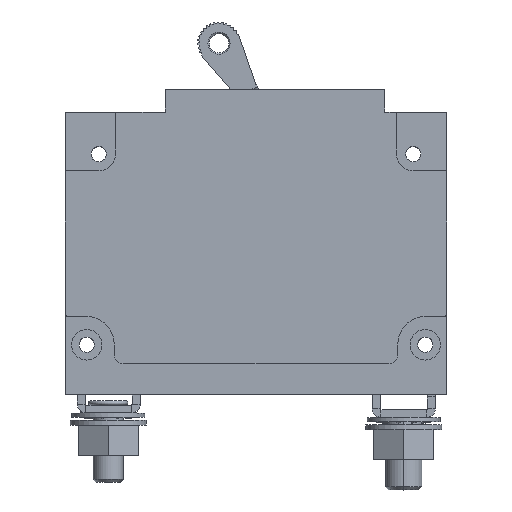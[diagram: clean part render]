
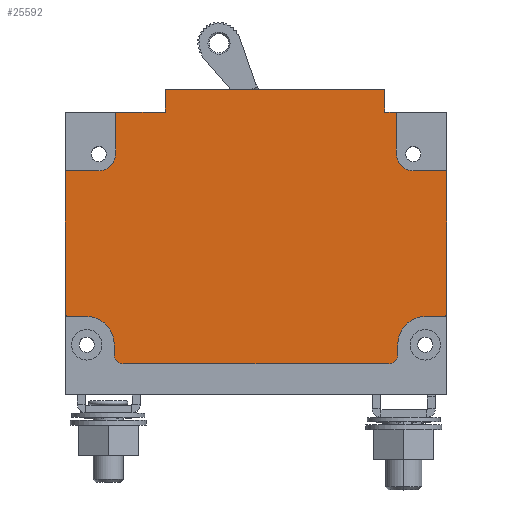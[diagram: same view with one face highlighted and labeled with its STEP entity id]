
A CAD part, top view. The second image highlights one B-rep face of the part: STEP entity #25592.
In plain terms, the highlighted planar face has unit normal (0, 0, 1).
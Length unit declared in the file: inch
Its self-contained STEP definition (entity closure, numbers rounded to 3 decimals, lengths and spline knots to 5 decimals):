
#3693=CARTESIAN_POINT('',(-0.993,-1.403,-1.116));
#3694=DIRECTION('',(0.,0.,1.));
#3695=DIRECTION('',(-1.,0.,0.));
#3696=AXIS2_PLACEMENT_3D('',#3693,#3694,#3695);
#3711=CARTESIAN_POINT('',(-1.235,-1.335,-1.116));
#3712=DIRECTION('',(0.,0.,-1.));
#3713=DIRECTION('',(0.,1.,0.));
#3714=AXIS2_PLACEMENT_3D('',#3711,#3712,#3713);
#3729=CARTESIAN_POINT('',(-1.36,-1.14,-1.116));
#3730=DIRECTION('',(0.,0.,1.));
#3731=DIRECTION('',(-1.,0.,0.));
#3732=AXIS2_PLACEMENT_3D('',#3729,#3730,#3731);
#3743=DIRECTION('',(0.,1.,0.));
#3744=VECTOR('',#3743,0.068);
#3745=CARTESIAN_POINT('',(-1.055,-1.403,-1.116));
#3746=LINE('',#3745,#3744);
#3747=DIRECTION('',(-1.,0.,0.));
#3748=VECTOR('',#3747,0.125);
#3749=CARTESIAN_POINT('',(-1.235,-1.155,-1.116));
#3750=LINE('',#3749,#3748);
#3751=DIRECTION('',(0.,-1.,0.));
#3752=VECTOR('',#3751,0.94);
#3753=CARTESIAN_POINT('',(-1.375,-0.2,-1.116));
#3754=LINE('',#3753,#3752);
#3755=DIRECTION('',(1.,0.,0.));
#3756=VECTOR('',#3755,0.219);
#3757=CARTESIAN_POINT('',(-1.375,-0.2,-1.116));
#3758=LINE('',#3757,#3756);
#3759=CARTESIAN_POINT('',(-1.156,-0.09,-1.116));
#3760=DIRECTION('',(0.,0.,1.));
#3761=DIRECTION('',(0.,-1.,0.));
#3762=AXIS2_PLACEMENT_3D('',#3759,#3760,#3761);
#3764=DIRECTION('',(0.,1.,0.));
#3765=VECTOR('',#3764,0.275);
#3766=CARTESIAN_POINT('',(-1.046,-0.09,-1.116));
#3767=LINE('',#3766,#3765);
#3768=DIRECTION('',(-1.,0.,0.));
#3769=VECTOR('',#3768,0.327);
#3770=CARTESIAN_POINT('',(-0.719,0.185,-1.116));
#3771=LINE('',#3770,#3769);
#3772=DIRECTION('',(0.,1.,0.));
#3773=VECTOR('',#3772,0.15);
#3774=CARTESIAN_POINT('',(-0.719,0.185,-1.116));
#3775=LINE('',#3774,#3773);
#3776=DIRECTION('',(1.,0.,0.));
#3777=VECTOR('',#3776,1.438);
#3778=CARTESIAN_POINT('',(-0.719,0.335,-1.116));
#3779=LINE('',#3778,#3777);
#3780=DIRECTION('',(0.,-1.,0.));
#3781=VECTOR('',#3780,0.15);
#3782=CARTESIAN_POINT('',(0.719,0.335,-1.116));
#3783=LINE('',#3782,#3781);
#3784=DIRECTION('',(-1.,0.,0.));
#3785=VECTOR('',#3784,0.077);
#3786=CARTESIAN_POINT('',(0.796,0.185,-1.116));
#3787=LINE('',#3786,#3785);
#3788=DIRECTION('',(0.,-1.,0.));
#3789=VECTOR('',#3788,0.275);
#3790=CARTESIAN_POINT('',(0.796,0.185,-1.116));
#3791=LINE('',#3790,#3789);
#3792=CARTESIAN_POINT('',(0.906,-0.09,-1.116));
#3793=DIRECTION('',(0.,0.,1.));
#3794=DIRECTION('',(-1.,0.,0.));
#3795=AXIS2_PLACEMENT_3D('',#3792,#3793,#3794);
#3797=DIRECTION('',(-1.,0.,0.));
#3798=VECTOR('',#3797,0.219);
#3799=CARTESIAN_POINT('',(1.125,-0.2,-1.116));
#3800=LINE('',#3799,#3798);
#3801=DIRECTION('',(0.,1.,0.));
#3802=VECTOR('',#3801,0.94);
#3803=CARTESIAN_POINT('',(1.125,-1.14,-1.116));
#3804=LINE('',#3803,#3802);
#3805=DIRECTION('',(1.,0.,0.));
#3806=VECTOR('',#3805,0.125);
#3807=CARTESIAN_POINT('',(0.985,-1.155,-1.116));
#3808=LINE('',#3807,#3806);
#3809=DIRECTION('',(0.,-1.,0.));
#3810=VECTOR('',#3809,0.068);
#3811=CARTESIAN_POINT('',(0.805,-1.335,-1.116));
#3812=LINE('',#3811,#3810);
#3813=DIRECTION('',(-1.,0.,0.));
#3814=VECTOR('',#3813,1.736);
#3815=CARTESIAN_POINT('',(0.743,-1.465,-1.116));
#3816=LINE('',#3815,#3814);
#5692=CARTESIAN_POINT('',(1.11,-1.14,-1.116));
#5693=DIRECTION('',(0.,0.,1.));
#5694=DIRECTION('',(0.,-1.,0.));
#5695=AXIS2_PLACEMENT_3D('',#5692,#5693,#5694);
#5701=CARTESIAN_POINT('',(0.985,-1.335,-1.116));
#5702=DIRECTION('',(0.,0.,-1.));
#5703=DIRECTION('',(-1.,0.,0.));
#5704=AXIS2_PLACEMENT_3D('',#5701,#5702,#5703);
#5719=CARTESIAN_POINT('',(0.743,-1.403,-1.116));
#5720=DIRECTION('',(0.,0.,1.));
#5721=DIRECTION('',(0.,-1.,0.));
#5722=AXIS2_PLACEMENT_3D('',#5719,#5720,#5721);
#16637=CARTESIAN_POINT('',(-0.719,0.335,-1.116));
#16638=CARTESIAN_POINT('',(0.719,0.335,-1.116));
#16639=VERTEX_POINT('',#16637);
#16640=VERTEX_POINT('',#16638);
#16641=CARTESIAN_POINT('',(-0.719,0.185,-1.116));
#16642=VERTEX_POINT('',#16641);
#16643=CARTESIAN_POINT('',(0.719,0.185,-1.116));
#16644=VERTEX_POINT('',#16643);
#17154=CARTESIAN_POINT('',(-1.375,-0.2,-1.116));
#17155=CARTESIAN_POINT('',(-1.156,-0.2,-1.116));
#17156=VERTEX_POINT('',#17154);
#17157=VERTEX_POINT('',#17155);
#17158=CARTESIAN_POINT('',(-1.046,-0.09,-1.116));
#17159=CARTESIAN_POINT('',(-1.046,0.185,-1.116));
#17160=VERTEX_POINT('',#17158);
#17161=VERTEX_POINT('',#17159);
#17162=CARTESIAN_POINT('',(0.796,0.185,-1.116));
#17163=CARTESIAN_POINT('',(0.796,-0.09,-1.116));
#17164=VERTEX_POINT('',#17162);
#17165=VERTEX_POINT('',#17163);
#17166=CARTESIAN_POINT('',(1.125,-0.2,-1.116));
#17167=CARTESIAN_POINT('',(0.906,-0.2,-1.116));
#17168=VERTEX_POINT('',#17166);
#17169=VERTEX_POINT('',#17167);
#17212=CARTESIAN_POINT('',(-1.235,-1.155,-1.116));
#17214=VERTEX_POINT('',#17212);
#17216=CARTESIAN_POINT('',(-1.055,-1.335,-1.116));
#17218=VERTEX_POINT('',#17216);
#17220=CARTESIAN_POINT('',(0.805,-1.335,-1.116));
#17222=VERTEX_POINT('',#17220);
#17224=CARTESIAN_POINT('',(0.985,-1.155,-1.116));
#17226=VERTEX_POINT('',#17224);
#17228=CARTESIAN_POINT('',(1.125,-1.14,-1.116));
#17230=VERTEX_POINT('',#17228);
#17232=CARTESIAN_POINT('',(1.11,-1.155,-1.116));
#17234=VERTEX_POINT('',#17232);
#17237=CARTESIAN_POINT('',(-1.375,-1.14,-1.116));
#17239=VERTEX_POINT('',#17237);
#17240=CARTESIAN_POINT('',(-1.36,-1.155,-1.116));
#17241=VERTEX_POINT('',#17240);
#17245=CARTESIAN_POINT('',(-1.055,-1.403,-1.116));
#17247=VERTEX_POINT('',#17245);
#17248=CARTESIAN_POINT('',(-0.993,-1.465,-1.116));
#17249=VERTEX_POINT('',#17248);
#17253=CARTESIAN_POINT('',(0.743,-1.465,-1.116));
#17255=VERTEX_POINT('',#17253);
#17256=CARTESIAN_POINT('',(0.805,-1.403,-1.116));
#17257=VERTEX_POINT('',#17256);
#25550=CARTESIAN_POINT('',(0.,0.,-1.116));
#25551=DIRECTION('',(0.,0.,-1.));
#25552=DIRECTION('',(-1.,0.,0.));
#25553=AXIS2_PLACEMENT_3D('',#25550,#25551,#25552);
#25554=PLANE('',#25553);
#25555=ORIENTED_EDGE('',*,*,#25488,.F.);
#25556=ORIENTED_EDGE('',*,*,#25504,.T.);
#25557=ORIENTED_EDGE('',*,*,#25516,.F.);
#25558=ORIENTED_EDGE('',*,*,#25530,.T.);
#25559=ORIENTED_EDGE('',*,*,#25543,.F.);
#25560=ORIENTED_EDGE('',*,*,#25164,.F.);
#25562=ORIENTED_EDGE('',*,*,#25561,.T.);
#25564=ORIENTED_EDGE('',*,*,#25563,.T.);
#25566=ORIENTED_EDGE('',*,*,#25565,.T.);
#25567=ORIENTED_EDGE('',*,*,#25201,.F.);
#25568=ORIENTED_EDGE('',*,*,#25230,.T.);
#25569=ORIENTED_EDGE('',*,*,#25245,.T.);
#25570=ORIENTED_EDGE('',*,*,#25304,.T.);
#25571=ORIENTED_EDGE('',*,*,#25323,.F.);
#25573=ORIENTED_EDGE('',*,*,#25572,.T.);
#25575=ORIENTED_EDGE('',*,*,#25574,.T.);
#25577=ORIENTED_EDGE('',*,*,#25576,.F.);
#25578=ORIENTED_EDGE('',*,*,#25351,.F.);
#25580=ORIENTED_EDGE('',*,*,#25579,.F.);
#25582=ORIENTED_EDGE('',*,*,#25581,.F.);
#25584=ORIENTED_EDGE('',*,*,#25583,.F.);
#25586=ORIENTED_EDGE('',*,*,#25585,.T.);
#25588=ORIENTED_EDGE('',*,*,#25587,.F.);
#25589=ORIENTED_EDGE('',*,*,#25473,.T.);
#25590=EDGE_LOOP('',(#25555,#25556,#25557,#25558,#25559,#25560,#25562,#25564,
#25566,#25567,#25568,#25569,#25570,#25571,#25573,#25575,#25577,#25578,#25580,
#25582,#25584,#25586,#25588,#25589));
#25591=FACE_OUTER_BOUND('',#25590,.F.);
#25592=ADVANCED_FACE('',(#25591),#25554,.F.);
#3697=CIRCLE('',#3696,0.062);
#3715=CIRCLE('',#3714,0.18);
#3733=CIRCLE('',#3732,0.015);
#3763=CIRCLE('',#3762,0.11);
#3796=CIRCLE('',#3795,0.11);
#5696=CIRCLE('',#5695,0.015);
#5705=CIRCLE('',#5704,0.18);
#5723=CIRCLE('',#5722,0.062);
#25164=EDGE_CURVE('',#17156,#17239,#3754,.T.);
#25201=EDGE_CURVE('',#16642,#17161,#3771,.T.);
#25230=EDGE_CURVE('',#16642,#16639,#3775,.T.);
#25245=EDGE_CURVE('',#16639,#16640,#3779,.T.);
#25304=EDGE_CURVE('',#16640,#16644,#3783,.T.);
#25323=EDGE_CURVE('',#17164,#16644,#3787,.T.);
#25351=EDGE_CURVE('',#17230,#17168,#3804,.T.);
#25473=EDGE_CURVE('',#17255,#17249,#3816,.T.);
#25488=EDGE_CURVE('',#17247,#17249,#3697,.T.);
#25504=EDGE_CURVE('',#17247,#17218,#3746,.T.);
#25516=EDGE_CURVE('',#17214,#17218,#3715,.T.);
#25530=EDGE_CURVE('',#17214,#17241,#3750,.T.);
#25543=EDGE_CURVE('',#17239,#17241,#3733,.T.);
#25561=EDGE_CURVE('',#17156,#17157,#3758,.T.);
#25563=EDGE_CURVE('',#17157,#17160,#3763,.T.);
#25565=EDGE_CURVE('',#17160,#17161,#3767,.T.);
#25572=EDGE_CURVE('',#17164,#17165,#3791,.T.);
#25574=EDGE_CURVE('',#17165,#17169,#3796,.T.);
#25576=EDGE_CURVE('',#17168,#17169,#3800,.T.);
#25579=EDGE_CURVE('',#17234,#17230,#5696,.T.);
#25581=EDGE_CURVE('',#17226,#17234,#3808,.T.);
#25583=EDGE_CURVE('',#17222,#17226,#5705,.T.);
#25585=EDGE_CURVE('',#17222,#17257,#3812,.T.);
#25587=EDGE_CURVE('',#17255,#17257,#5723,.T.);
